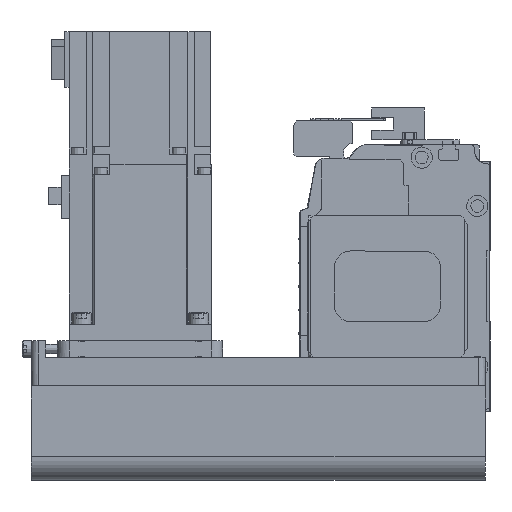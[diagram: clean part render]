
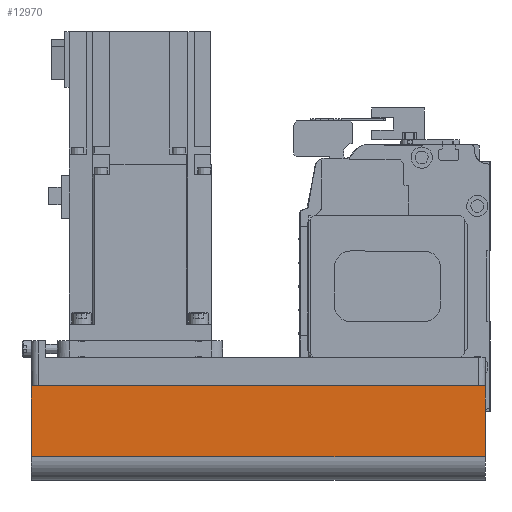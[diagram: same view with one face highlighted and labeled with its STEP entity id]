
A CAD part, left-side view. The second image highlights one B-rep face of the part: STEP entity #12970.
In plain terms, the highlighted planar face has unit normal (-1, 0, 0) as drawn and (0, -1, 0) by its records, which use the part's own axes.
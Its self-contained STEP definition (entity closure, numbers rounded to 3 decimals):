
#2329=ORIENTED_EDGE('',*,*,#5237,.F.);
#2330=ORIENTED_EDGE('',*,*,#5203,.F.);
#2331=ORIENTED_EDGE('',*,*,#5226,.T.);
#2332=ORIENTED_EDGE('',*,*,#5270,.T.);
#5203=EDGE_CURVE('',#6823,#6824,#8129,.T.);
#5226=EDGE_CURVE('',#6823,#6842,#8148,.T.);
#5237=EDGE_CURVE('',#6824,#6850,#8157,.T.);
#5270=EDGE_CURVE('',#6842,#6850,#8170,.T.);
#6823=VERTEX_POINT('',#20287);
#6824=VERTEX_POINT('',#20289);
#6842=VERTEX_POINT('',#20332);
#6850=VERTEX_POINT('',#20356);
#8129=LINE('',#20288,#9357);
#8148=LINE('',#20333,#9376);
#8157=LINE('',#20355,#9385);
#8170=LINE('',#20413,#9398);
#9357=VECTOR('',#16262,1000.);
#9376=VECTOR('',#16295,1000.);
#9385=VECTOR('',#16316,1000.);
#9398=VECTOR('',#16401,1000.);
#10454=EDGE_LOOP('',(#2329,#2330,#2331,#2332));
#11504=FACE_BOUND('',#10454,.T.);
#12385=PLANE('',#13995);
#12970=ADVANCED_FACE('',(#11504),#12385,.T.);
#13995=AXIS2_PLACEMENT_3D('',#20414,#16402,#16403);
#16262=DIRECTION('',(1.,0.,0.));
#16295=DIRECTION('',(0.,0.,-1.));
#16316=DIRECTION('',(0.,0.,-1.));
#16401=DIRECTION('',(1.,0.,0.));
#16402=DIRECTION('',(0.,-1.,0.));
#16403=DIRECTION('',(0.,0.,-1.));
#20287=CARTESIAN_POINT('',(-192.,-40.,-12.1));
#20288=CARTESIAN_POINT('',(-192.,-40.,-12.1));
#20289=CARTESIAN_POINT('',(0.,-40.,-12.1));
#20332=CARTESIAN_POINT('',(-192.,-40.,-42.));
#20333=CARTESIAN_POINT('',(-192.,-40.,-12.1));
#20355=CARTESIAN_POINT('',(0.,-40.,-12.1));
#20356=CARTESIAN_POINT('',(0.,-40.,-42.));
#20413=CARTESIAN_POINT('',(-192.,-40.,-42.));
#20414=CARTESIAN_POINT('',(-192.,-40.,-12.1));
